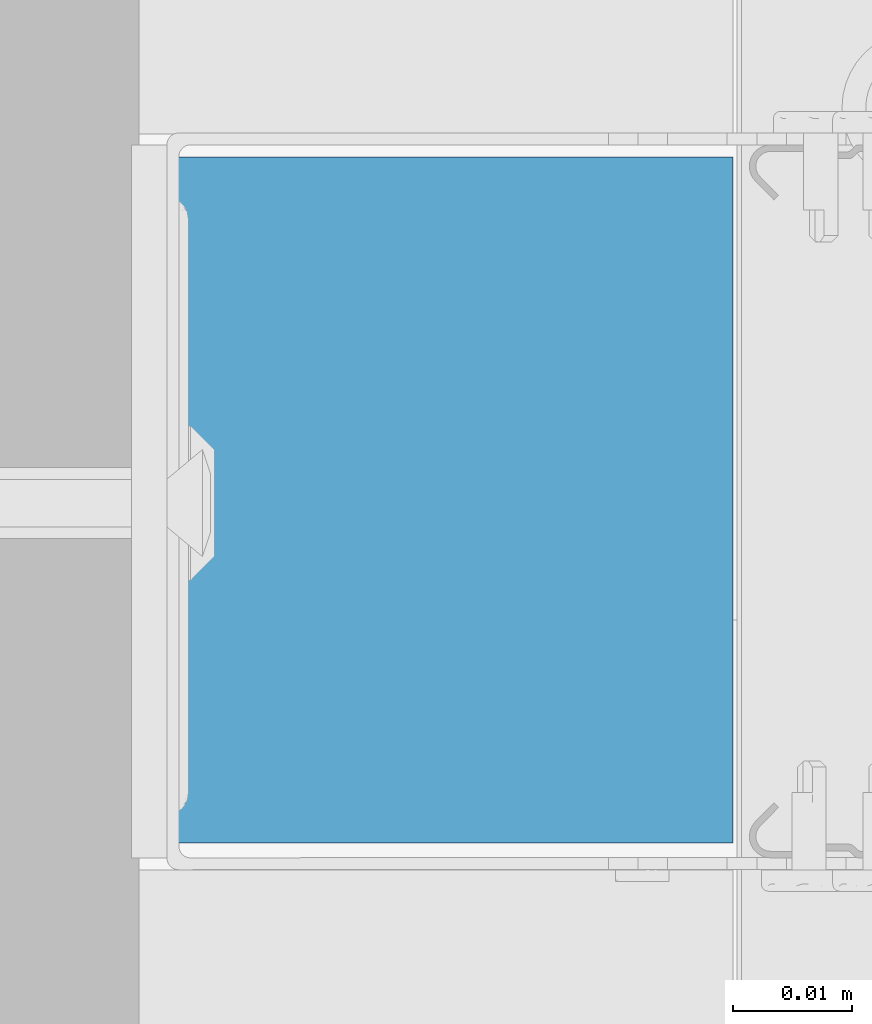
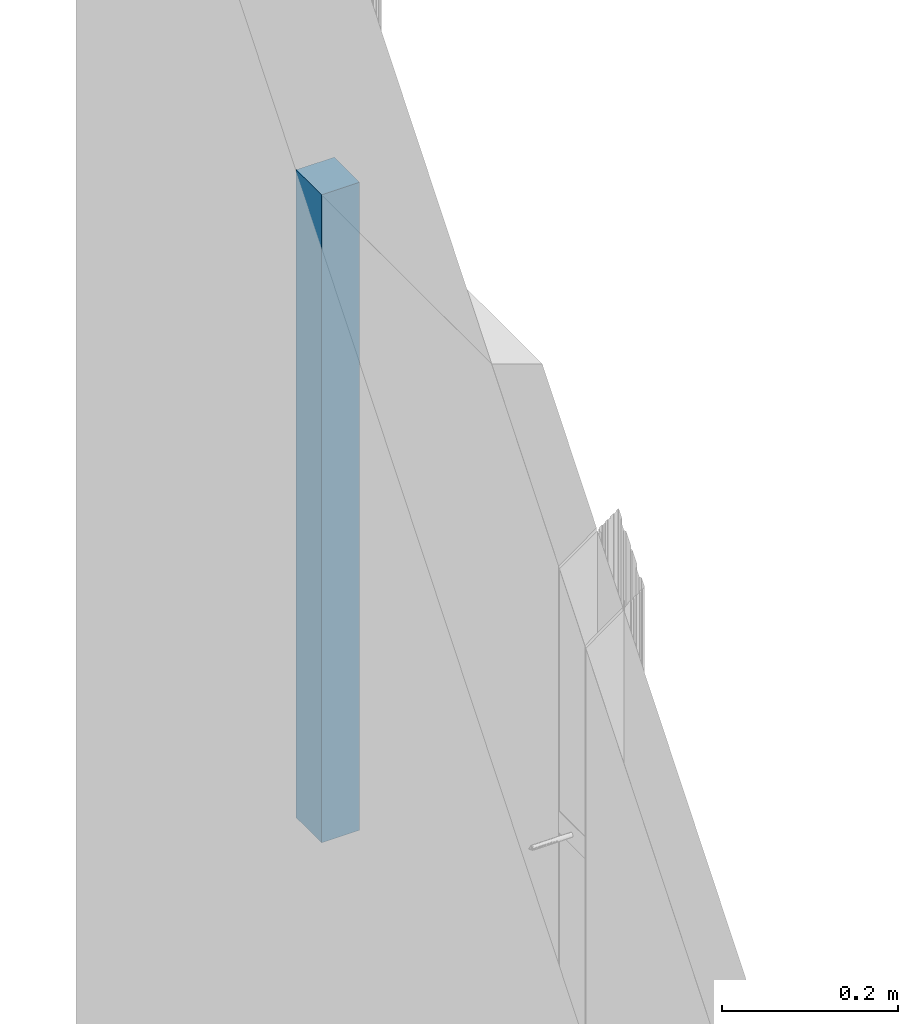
# One storey, part 11 of 67: 1 wall.
"""IFC2X3 building model written with IfcOpenShell, lengths in millimetres."""

from ifc_helpers import new_model, si_unit, frame, origin_with_axes, place, context, subcontext, project, spatial, faceted_brep, material, type_object, element, save


model = new_model("IFC2X3")

# Units and contexts
model_context = context("Model", 3, world=origin_with_axes())
body_context = subcontext(model_context, "Body", "Model", "MODEL_VIEW")
ifc_project = project(units=[si_unit("LENGTHUNIT", "METRE", prefix="MILLI"), si_unit("AREAUNIT", "SQUARE_METRE"), si_unit("VOLUMEUNIT", "CUBIC_METRE")], contexts=[model_context])

# Site, building, storey
site_placement = place(None, frame((2152.14102611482, 674.9749105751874, 57.61556563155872), z_axis=(0.0, 0.0, 1.0), x_axis=(-1.1102230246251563e-16, 1.0, 0.0)))
site = spatial("IfcSite", under=ifc_project, at=site_placement, Name="Default Site", CompositionType="ELEMENT")
building_placement = place(site_placement, origin_with_axes())
building = spatial("IfcBuilding", under=site, at=building_placement, Name="Default Building", CompositionType="ELEMENT")
storey_placement = place(building_placement, origin_with_axes())
storey = spatial("IfcBuildingStorey", under=building, at=storey_placement, Name="Default Building Storey", CompositionType="ELEMENT", Elevation=57.61556563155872)

# Wall
ifc_material = material(Name="Undefined")
wall_type = type_object("IfcWallType", Name="Wypełnienie z wełny mineralnej szklanej ISOVER#1", PredefinedType="NOTDEFINED")
wall_placement = place(storey_placement, frame((3241.1765458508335, 5350.424146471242, 895.3595813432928), z_axis=(0.0, 0.0, 1.0), x_axis=(-1.0, 4.718447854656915e-16, 0.0)))
element("IfcWall", 1, at=wall_placement, inside=storey, type_object=wall_type, material=ifc_material, Name="Wypełnienie z wełny mineralnej szklanej ISOVER", context=body_context, shape_type="Brep", body=[
    faceted_brep([(-168.12478005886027, 3328.2832634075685, 911.5436077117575), (-225.8247733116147, 3328.2832634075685, 911.5436077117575), (-225.8247733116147, 3328.2832634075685, 10.28402615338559), (-168.12478005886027, 3328.2832634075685, 10.28402615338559), (-168.12478005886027, 3378.2831687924, 10.28402615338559), (-168.12478005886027, 3378.2831687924, 911.5436077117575), (-225.8247733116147, 3378.283168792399, 911.5436077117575), (-225.8247733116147, 3378.283168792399, 10.28402615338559)], [[[0, 1, 2, 3]], [[3, 4, 5, 0]], [[6, 5, 4, 7]], [[7, 4, 3, 2]]]),
    faceted_brep([(-225.8247733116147, 3328.2832634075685, 911.5436077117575), (-225.8247733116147, 3378.283168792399, 911.5436077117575), (-225.8247733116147, 3378.283168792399, 10.28402615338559), (-225.8247733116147, 3328.2832634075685, 10.28402615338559), (-168.12478005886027, 3328.2832634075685, 911.5436077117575), (-168.12478005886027, 3378.2831687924, 911.5436077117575)], [[[0, 1, 2, 3]], [[0, 4, 5, 1]]]),
])

save(model, "model.ifc")
